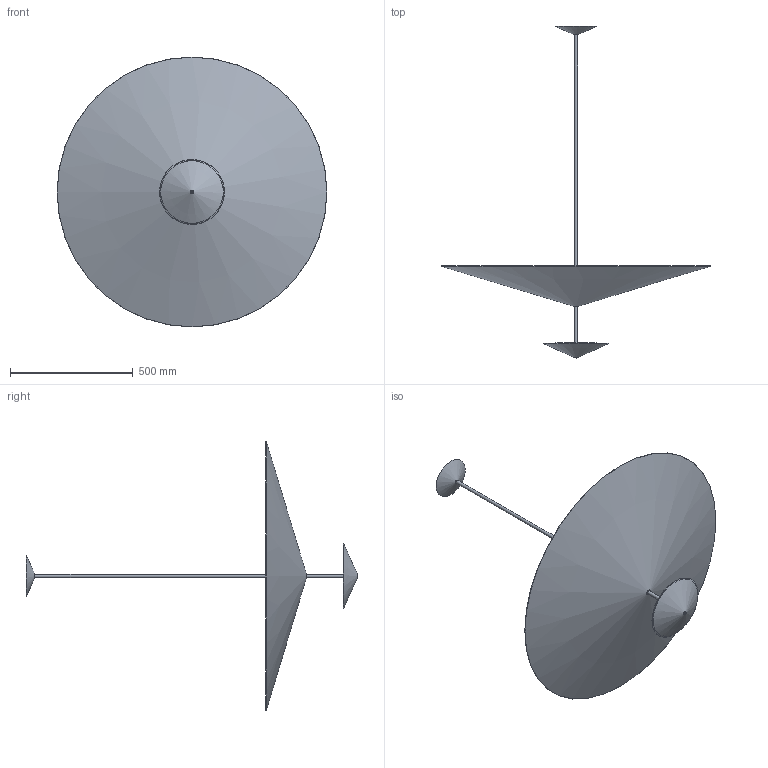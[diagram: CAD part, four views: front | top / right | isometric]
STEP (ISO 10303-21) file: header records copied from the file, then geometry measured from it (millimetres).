
FILE_DESCRIPTION(/* description */ (''),/* implementation_level */ '2;1');
FILE_NAME(/* name */ 'C:\Users\STEFANO\Desktop\3D SEM\1710-20 - NARCISO SOSPENSIONE F.E\P10_001 - ASS Narciso Sospensione.stp',/* time_stamp */ '2019-09-25T15:46:09+02:00',/* author */ ('STEFANO'),/* organization */ (''),/* preprocessor_version */ 'ST-DEVELOPER v17',/* originating_system */ 'Autodesk Inventor 2019',/* authorisation */ '');
FILE_SCHEMA (('AUTOMOTIVE_DESIGN { 1 0 10303 214 3 1 1 }'));
Length unit declared in the file: millimetre
Products named in the file (9): P10_001 - ASS Narciso Sospensione; P10_060_1 - ASS Cono intermedio D1100.ipt; P10_060 - Cono intermedio D1100; P10_155 - Narciso sospensione Cono inferiore; P10_130 - Narciso Piantana Base conica; P10_158 - Stelo inferiore; 16491_037.02 Rosone; Parte55; DISCO GRANDE
Assembly tree (8 placements, depth 3):
  P10_001 - ASS Narciso Sospensione
    P10_060_1 - ASS Cono intermedio D1100.ipt
      P10_060 - Cono intermedio D1100
    P10_155 - Narciso sospensione Cono inferiore
      P10_130 - Narciso Piantana Base conica
    P10_158 - Stelo inferiore
    16491_037.02 Rosone
    Parte55
    DISCO GRANDE
Bounding box: 1100 x 1352.86 x 1100 mm (x, y, z)
Volume: 2691182.7 mm3; surface area: 2937709.3 mm2
Topology: 6 solids, 6 shells, 34 faces, 73 edges, 52 vertices
Faces by surface type: plane 12, cylinder 9, cone 9, torus 3, sphere 1
Full cylindrical faces by diameter (mm): 10 x1, 13 x2, 14 x3, 15 x1, 255 x1, 625 x1
Entity records: 1306 total; most frequent: DIRECTION 230, CARTESIAN_POINT 176, ORIENTED_EDGE 146, AXIS2_PLACEMENT_3D 106, EDGE_CURVE 73, CIRCLE 55, VERTEX_POINT 52, EDGE_LOOP 41
